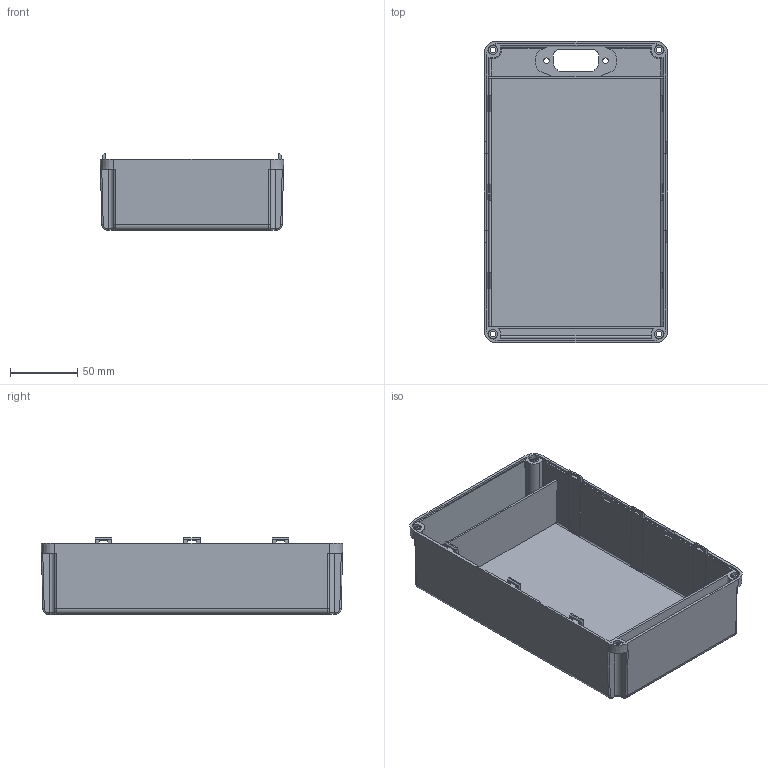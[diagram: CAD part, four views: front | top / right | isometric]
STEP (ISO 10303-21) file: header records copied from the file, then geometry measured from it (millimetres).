
FILE_DESCRIPTION((''),'2;1');
FILE_NAME('K-BOT250701001_7_2_1_1_1_1_1','2025-07-13T10:42:08',('Administrator'),(''),'CREO PARAMETRIC BY PTC INC, 2022073','CREO PARAMETRIC BY PTC INC, 2022073','');
FILE_SCHEMA(('CONFIG_CONTROL_DESIGN'));
Length unit declared in the file: millimetre
Products named in the file (1): K-BOT250701001_7_2_1_1_1_1_1
Bounding box: 137 x 225 x 57 mm (x, y, z)
Volume: 207740.4 mm3; surface area: 152615.9 mm2
Topology: 1 solids, 1 shells, 278 faces, 792 edges, 512 vertices
Faces by surface type: plane 167, cylinder 89, torus 14, bspline 4, cone 4
Entity records: 9166 total; most frequent: CARTESIAN_POINT 1710, ORIENTED_EDGE 1584, DIRECTION 1530, EDGE_CURVE 792, VECTOR 566, LINE 566, VERTEX_POINT 512, AXIS2_PLACEMENT_3D 482
